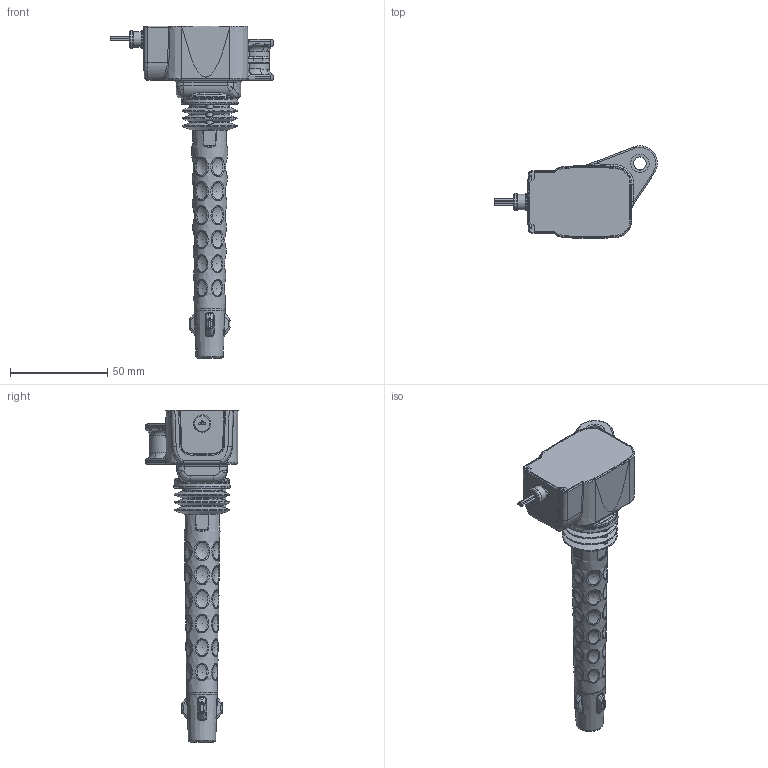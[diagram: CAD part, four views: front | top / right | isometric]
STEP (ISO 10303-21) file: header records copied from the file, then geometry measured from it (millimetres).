
FILE_DESCRIPTION(/* description */ (''),/* implementation_level */ '2;1');
FILE_NAME(/* name */ '0221B00256_01_eb',/* time_stamp */ '2012-03-27T13:24:08+02:00',/* author */ (''),/* organization */ (''),/* preprocessor_version */ 'ST-DEVELOPER v9',/* originating_system */ 'UGS - NX 4.0',/* authorisation */ '');
FILE_SCHEMA (('AUTOMOTIVE_DESIGN { 1 0 10303 214 1 1 1 1 }'));
Products named in the file (1): del203AFjft3
Bounding box: 83.82 x 47.66 x 171.05 mm (x, y, z)
Volume: 90458.3 mm3; surface area: 27457 mm2
Topology: 6 solids, 8 shells, 678 faces, 1742 edges, 1042 vertices
Faces by surface type: bspline 308, cylinder 132, torus 94, plane 91, cone 39, extrusion 9, sphere 5
Full cylindrical faces by diameter (mm): 1 x4, 1.4 x1, 2 x1, 6.5 x1, 7.7 x1, 7.9 x1, 8 x1, 8.6 x1, 9 x3, 9.4 x2, 11.4 x1, 13.3 x1, 14.5 x1, 15.7 x1
Entity records: 41561 total; most frequent: CARTESIAN_POINT 28875, ORIENTED_EDGE 2708, DIRECTION 2137, EDGE_CURVE 1388, AXIS2_PLACEMENT_3D 928, VERTEX_POINT 927, EDGE_LOOP 851, ADVANCED_FACE 678
